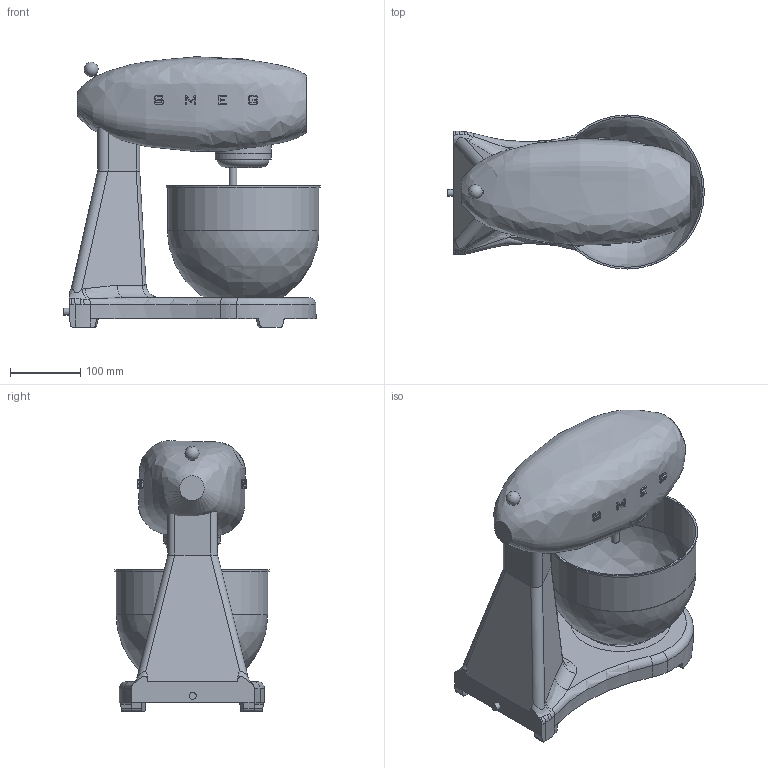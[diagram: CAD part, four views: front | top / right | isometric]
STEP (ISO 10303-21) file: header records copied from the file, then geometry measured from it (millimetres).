
FILE_DESCRIPTION(/* description */ (''),/* implementation_level */ '2;1');
FILE_NAME(/* name */ 'impastatrice assieme.stp',/* time_stamp */ '2018-09-20T14:07:30+02:00',/* author */ (''),/* organization */ (''),/* preprocessor_version */ 'ST-DEVELOPER v16',/* originating_system */ 'SIEMENS PLM Software NX 11.0',/* authorisation */ '');
FILE_SCHEMA (('AUTOMOTIVE_DESIGN { 1 0 10303 214 3 1 1 1 }'));
Length unit declared in the file: millimetre
Products named in the file (1): gobb80D85F20cgpa
Bounding box: 364.5 x 219 x 384.39 mm (x, y, z)
Volume: 7616909.4 mm3; surface area: 681040.7 mm2
Topology: 16 solids, 16 shells, 256 faces, 623 edges, 411 vertices
Faces by surface type: plane 150, cylinder 49, extrusion 31, bspline 17, torus 8, sphere 1
Full cylindrical faces by diameter (mm): 4 x1, 5 x1, 10 x1, 12 x1, 59 x2, 80 x2, 81 x1, 116 x1, 142 x2, 214 x1, 215 x1, 219 x1
Entity records: 9304 total; most frequent: CARTESIAN_POINT 3761, ORIENTED_EDGE 1184, DIRECTION 905, EDGE_CURVE 592, VERTEX_POINT 397, AXIS2_PLACEMENT_3D 334, B_SPLINE_CURVE_WITH_KNOTS 296, EDGE_LOOP 287
